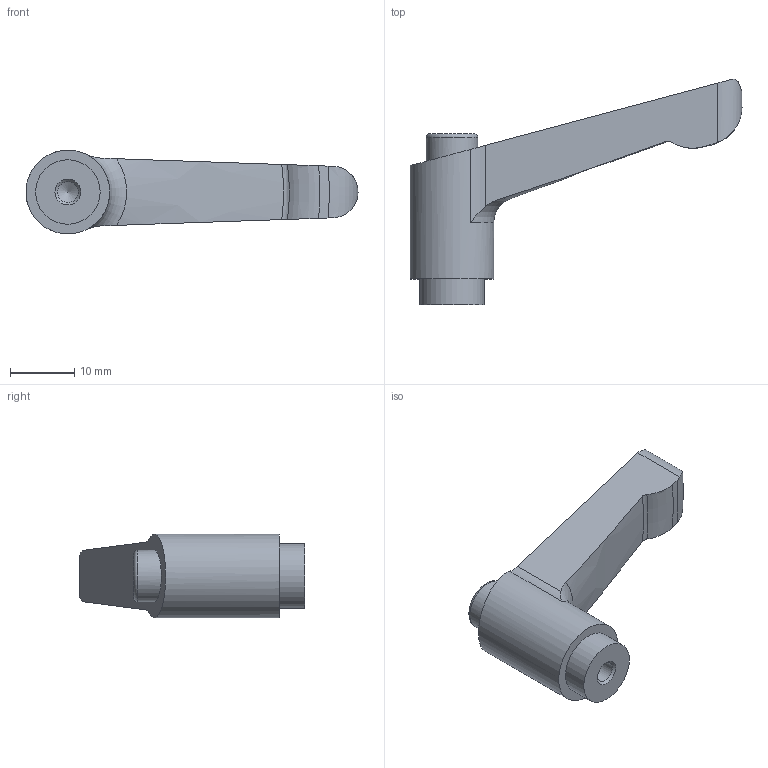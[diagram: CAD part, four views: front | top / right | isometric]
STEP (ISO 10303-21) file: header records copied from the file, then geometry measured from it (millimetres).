
FILE_DESCRIPTION( ( 'STEP AP203' ), '1' );
FILE_NAME( 'C:/Temp/Ganter_Step_05_03_2020/data/2_1/gn303_1/gn303_1_b/Adjustable hand lever GN 303.1-45-M4-SW-S.stp', '2020-03-05T11:21:53', ( 'License CC BY-ND 4.0' ), ( 'CADENAS' ), ' ', 'PARTsolutions', ' ' );
FILE_SCHEMA( ( 'CONFIG_CONTROL_DESIGN' ) );
Length unit declared in the file: millimetre
Products named in the file (1): _Adjustable hand lever GN 303.1-45-M4-SW-S
Bounding box: 51.49 x 35 x 12.99 mm (x, y, z)
Volume: 5886.4 mm3; surface area: 2700.6 mm2
Topology: 1 solids, 1 shells, 24 faces, 59 edges, 39 vertices
Faces by surface type: cylinder 7, plane 6, torus 6, cone 5
Full cylindrical faces by diameter (mm): 3.242 x1, 8 x1, 10 x1, 13 x1
Entity records: 834 total; most frequent: CARTESIAN_POINT 283, DIRECTION 100, ORIENTED_EDGE 98, EDGE_CURVE 49, AXIS2_PLACEMENT_3D 46, VERTEX_POINT 37, EDGE_LOOP 33, FACE_OUTER_BOUND 29
